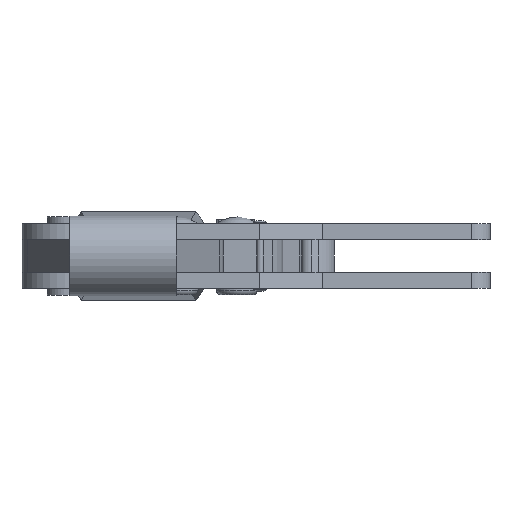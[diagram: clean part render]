
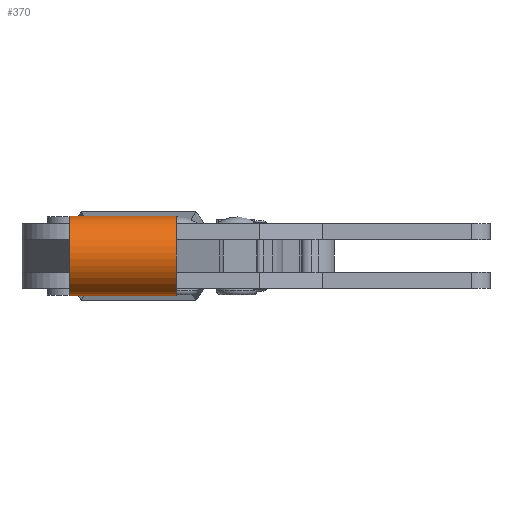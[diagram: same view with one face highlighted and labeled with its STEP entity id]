
A CAD part, left-side view. The second image highlights one B-rep face of the part: STEP entity #370.
In plain terms, the highlighted cylindrical face has radius 8.7 mm (diameter 17.4 mm), a partial arc.
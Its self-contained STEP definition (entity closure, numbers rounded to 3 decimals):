
#370 = ADVANCED_FACE( '', ( #716 ), #717, .T. );
#716 = FACE_OUTER_BOUND( '', #1285, .T. );
#717 = CYLINDRICAL_SURFACE( '', #1286, 8.7 );
#1285 = EDGE_LOOP( '', ( #2297, #2298, #2299, #2300 ) );
#1286 = AXIS2_PLACEMENT_3D( '', #2301, #2302, #2303 );
#2297 = ORIENTED_EDGE( '', *, *, #3494, .T. );
#2298 = ORIENTED_EDGE( '', *, *, #3495, .F. );
#2299 = ORIENTED_EDGE( '', *, *, #3496, .F. );
#2300 = ORIENTED_EDGE( '', *, *, #3461, .T. );
#2301 = CARTESIAN_POINT( '', ( -114.5, 23.515, 0. ) );
#2302 = DIRECTION( '', ( 0., 1., 0. ) );
#2303 = DIRECTION( '', ( 0., 0., -1. ) );
#3461 = EDGE_CURVE( '', #4116, #4114, #4117, .T. );
#3494 = EDGE_CURVE( '', #4114, #4174, #4175, .T. );
#3495 = EDGE_CURVE( '', #4176, #4174, #4177, .T. );
#3496 = EDGE_CURVE( '', #4116, #4176, #4178, .T. );
#4114 = VERTEX_POINT( '', #5100 );
#4116 = VERTEX_POINT( '', #5103 );
#4117 = LINE( '', #5104, #5105 );
#4174 = VERTEX_POINT( '', #5181 );
#4175 = CIRCLE( '', #5182, 8.7 );
#4176 = VERTEX_POINT( '', #5183 );
#4177 = LINE( '', #5184, #5185 );
#4178 = CIRCLE( '', #5186, 8.7 );
#5100 = CARTESIAN_POINT( '', ( -109.974, 0.265, -7.43 ) );
#5103 = CARTESIAN_POINT( '', ( -109.974, 23.515, -7.43 ) );
#5104 = CARTESIAN_POINT( '', ( -109.974, 23.515, -7.43 ) );
#5105 = VECTOR( '', #6400, 1000. );
#5181 = CARTESIAN_POINT( '', ( -109.974, 0.265, 7.43 ) );
#5182 = AXIS2_PLACEMENT_3D( '', #6459, #6460, #6461 );
#5183 = CARTESIAN_POINT( '', ( -109.974, 23.515, 7.43 ) );
#5184 = CARTESIAN_POINT( '', ( -109.974, 23.515, 7.43 ) );
#5185 = VECTOR( '', #6462, 1000. );
#5186 = AXIS2_PLACEMENT_3D( '', #6463, #6464, #6465 );
#6400 = DIRECTION( '', ( 0., -1., 0. ) );
#6459 = CARTESIAN_POINT( '', ( -114.5, 0.265, 0. ) );
#6460 = DIRECTION( '', ( 0., 1., 0. ) );
#6461 = DIRECTION( '', ( 1., 0., 0. ) );
#6462 = DIRECTION( '', ( 0., -1., 0. ) );
#6463 = CARTESIAN_POINT( '', ( -114.5, 23.515, 0. ) );
#6464 = DIRECTION( '', ( 0., 1., 0. ) );
#6465 = DIRECTION( '', ( 1., 0., 0. ) );
